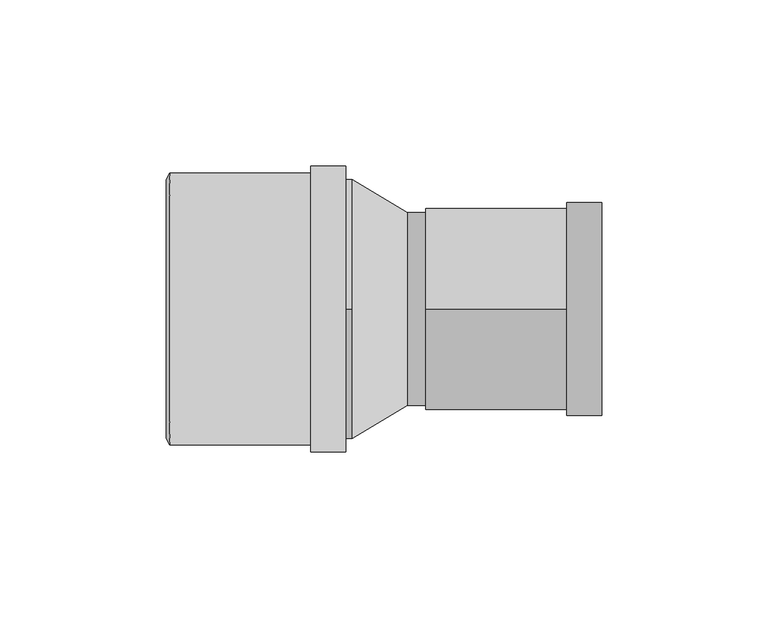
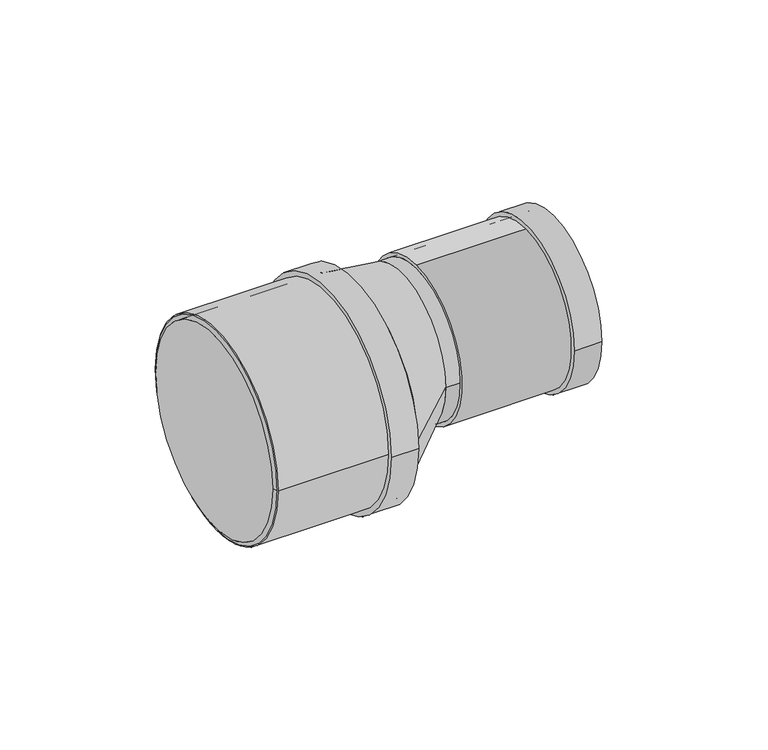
"""IFC4 building model written with IfcOpenShell, lengths in millimetres: pipe fitting geometry, Superdrain SKR-Reducer : Superdrain SKR-Reducer."""

from ifc_helpers import new_model, si_unit, point, frame, frame_2d, origin, origin_2d, place, context, project, spatial, polyline, circle_curve, trimmed, segment, composite_curve, outline, extrude, source, transform, mapped, element, save
from ifc_brep_helpers import plane_surface, revolved_surface, spline_surface, advanced_brep


def pipe_fitting_ca2bbeb8(model_context):
    return source(origin(), model_context, "Body", "SolidModel", [
        extrude(outline(composite_curve([segment(trimmed(circle_curve(frame_2d((0.0, 0.1450234)), 40.95), [point((40.95, 0.1450234))], [point((-40.95, 0.1450234))], False, "CARTESIAN"), True, "CONTINUOUS"), segment(trimmed(circle_curve(frame_2d((0.0, 0.1450234)), 40.95), [point((-40.95, 0.1450234))], [point((40.95, 0.1450234))], False, "CARTESIAN"), True, "CONTINUOUS")], self_intersect=False), holes=[composite_curve([segment(trimmed(circle_curve(frame_2d((0.0, 0.1450234)), 39.0), [point((39.0, 0.1450234))], [point((-39.0, 0.1450234))], True, "CARTESIAN"), True, "CONTINUOUS"), segment(trimmed(circle_curve(frame_2d((0.0, 0.1450234)), 39.0), [point((-39.0, 0.1450234))], [point((39.0, 0.1450234))], True, "CARTESIAN"), True, "CONTINUOUS")], self_intersect=False)]), frame((-55.0, 0.0, 0.0), z_axis=(1.0, 0.0, 0.0), x_axis=(0.0, 1.0, 0.0)), (0.0, 0.0, 1.0), 53.0),
        extrude(outline(composite_curve([segment(trimmed(circle_curve(frame_2d((0.0, 0.1450234)), 42.9975), [point((42.9975, 0.1450234))], [point((-42.9975, 0.1450234))], False, "CARTESIAN"), True, "CONTINUOUS"), segment(trimmed(circle_curve(frame_2d((0.0, 0.1450234)), 42.9975), [point((-42.9975, 0.1450234))], [point((42.9975, 0.1450234))], False, "CARTESIAN"), True, "CONTINUOUS")], self_intersect=False), holes=[composite_curve([segment(trimmed(circle_curve(frame_2d((0.0, 0.1450234)), 39.0), [point((39.0, 0.1450234))], [point((-39.0, 0.1450234))], True, "CARTESIAN"), True, "CONTINUOUS"), segment(trimmed(circle_curve(frame_2d((0.0, 0.1450234)), 39.0), [point((-39.0, 0.1450234))], [point((39.0, 0.1450234))], True, "CARTESIAN"), True, "CONTINUOUS")], self_intersect=False)]), frame((-12.6, 0.0, 0.0), z_axis=(1.0, 0.0, 0.0), x_axis=(0.0, 1.0, 0.0)), (0.0, 0.0, 1.0), 10.6),
        advanced_brep(
        [(-56.0, 39.0, 0.1450234), (-56.0, -39.0, 0.1450234), (-55.0, 40.95, 0.1450234), (-55.0, -40.95, 0.1450234)],
        [
            (0, 1, circle_curve(frame((-56.0, 0.0, 0.1450234), z_axis=(-1.0, 0.0, 0.0), x_axis=(0.0, 1.0000000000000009, 0.0)), 39.0)),
            (1, 0, circle_curve(frame((-56.0, 0.0, 0.1450234), z_axis=(-1.0, 0.0, 0.0), x_axis=(0.0, -1.0000000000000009, 0.0)), 39.0)),
            (2, 3, circle_curve(frame((-55.0, 0.0, 0.1450234), z_axis=(1.0, 0.0, 0.0), x_axis=(0.0, -1.0000000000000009, 0.0)), 40.95)),
            (3, 2, circle_curve(frame((-55.0, 0.0, 0.1450234), z_axis=(1.0, 0.0, 0.0), x_axis=(0.0, 1.0000000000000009, 0.0)), 40.95)),
            (3, 1),
            (0, 2),
        ],
        [
            plane_surface(frame((-56.0, 0.0, 0.1450234), z_axis=(-1.0, 0.0, 0.0), x_axis=(0.0, 0.0, -1.0))),
            plane_surface(frame((-55.0, 0.0, 0.1450234), z_axis=(1.0, 0.0, 0.0), x_axis=(0.0, 0.0, -1.0))),
            revolved_surface(polyline([(-56.0, 38.99999999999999, 0.1450234), (-55.0, 40.95, 0.1450234)]), (-76.0, 0.0, 0.1450234), (1.0000000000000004, 0.0, 0.0)),
            revolved_surface(polyline([(-56.0, -38.99999999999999, 0.1450234), (-55.0, -40.95, 0.1450234)]), (-76.0, 0.0, 0.1450234), (1.0000000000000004, 0.0, 0.0)),
        ],
        [
            (0, [[1, 2]]),
            (1, [[3, 4]]),
            (2, [[-4, 5, -1, 6]]),
            (3, [[-3, -6, -2, -5]]),
        ],
    ),
        advanced_brep(
        [(16.5, -29.0, 10.0), (16.5, 29.0, 10.0), (0.0, -39.0, 0.0), (0.0, 39.0, 0.0)],
        [
            (0, 1, circle_curve(frame((16.5, 0.0, 10.0), z_axis=(1.0, 0.0, 0.0), x_axis=(0.0, 1.0, 0.0)), 29.0)),
            (1, 0, circle_curve(frame((16.5, 0.0, 10.0), z_axis=(1.0, 0.0, 0.0), x_axis=(0.0, 1.0, 0.0)), 29.0)),
            (2, 3, circle_curve(frame((0.0, 0.0, 0.0), z_axis=(-1.0, 0.0, 0.0), x_axis=(0.0, 1.0, 0.0)), 39.0)),
            (3, 2, circle_curve(frame((0.0, 0.0, 0.0), z_axis=(-1.0, 0.0, 0.0), x_axis=(0.0, 1.0, 0.0)), 39.0)),
            (3, 1),
            (0, 2),
        ],
        [
            plane_surface(frame((16.5, 0.0, 10.0), z_axis=(1.0, 0.0, 0.0), x_axis=(0.0, 0.0, -1.0))),
            plane_surface(frame((0.0, 0.0, 0.0), z_axis=(-1.0, 0.0, 0.0), x_axis=(0.0, 0.0, -1.0))),
            spline_surface(2, 1, [[(0.0, -39.0, 0.0), (16.5, -29.0, 10.0)], [(0.0, -39.0, -39.0), (16.5, -29.0, -19.0)], [(0.0, 0.0, -39.0), (16.5, 0.0, -19.0)], [(0.0, 39.0, -39.0), (16.5, 29.0, -19.0)], [(0.0, 39.0, 0.0), (16.5, 29.0, 10.0)]], [3, 2, 3], [2, 2], [0.0, 1.0, 2.0], [0.0, 1.0], weights=[[1.0, 1.0], [0.7071067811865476, 0.7071067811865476], [1.0, 1.0], [0.7071067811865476, 0.7071067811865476], [1.0, 1.0]]),
            spline_surface(2, 1, [[(0.0, 39.0, 0.0), (16.5, 29.0, 10.0)], [(0.0, 39.0, 39.0), (16.5, 29.0, 39.0)], [(0.0, 0.0, 39.0), (16.5, 0.0, 39.0)], [(0.0, -39.0, 39.0), (16.5, -29.0, 39.0)], [(0.0, -39.0, 0.0), (16.5, -29.0, 10.0)]], [3, 2, 3], [2, 2], [0.0, 1.0, 2.0], [0.0, 1.0], weights=[[1.0, 1.0], [0.7071067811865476, 0.7071067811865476], [1.0, 1.0], [0.7071067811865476, 0.7071067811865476], [1.0, 1.0]]),
        ],
        [
            (0, [[1, 2]]),
            (1, [[3, 4]]),
            (2, [[-4, 5, -1, 6]]),
            (3, [[-3, -6, -2, -5]]),
        ],
    ),
        extrude(outline(composite_curve([segment(trimmed(circle_curve(frame_2d((0.0, 10.0)), 29.0), [point((-29.0, 10.0))], [point((29.0, 10.0))], False, "CARTESIAN"), True, "CONTINUOUS"), segment(trimmed(circle_curve(frame_2d((0.0, 10.0)), 29.0), [point((29.0, 10.0))], [point((-29.0, 10.0))], False, "CARTESIAN"), True, "CONTINUOUS")], self_intersect=False)), frame((16.5, 0.0, 0.0), z_axis=(1.0, 0.0, 0.0), x_axis=(0.0, 1.0, 0.0)), (0.0, 0.0, 1.0), 5.5),
        extrude(outline(composite_curve([segment(trimmed(circle_curve(frame_2d((0.0, 10.0)), 31.9725), [point((-31.9725, 10.0))], [point((31.9725, 10.0))], False, "CARTESIAN"), True, "CONTINUOUS"), segment(trimmed(circle_curve(frame_2d((0.0, 10.0)), 31.9725), [point((31.9725, 10.0))], [point((-31.9725, 10.0))], False, "CARTESIAN"), True, "CONTINUOUS")], self_intersect=False), holes=[composite_curve([segment(trimmed(circle_curve(frame_2d((0.0, 10.0)), 29.0), [point((29.0, 10.0))], [point((-29.0, 10.0))], True, "CARTESIAN"), True, "CONTINUOUS"), segment(trimmed(circle_curve(frame_2d((0.0, 10.0)), 29.0), [point((-29.0, 10.0))], [point((29.0, 10.0))], True, "CARTESIAN"), True, "CONTINUOUS")], self_intersect=False)]), frame((64.4, 0.0, 0.0), z_axis=(1.0, 0.0, 0.0), x_axis=(0.0, 1.0, 0.0)), (0.0, 0.0, 1.0), 10.6),
        extrude(outline(composite_curve([segment(trimmed(circle_curve(frame_2d((0.0, 10.0)), 30.45), [point((0.0, 40.45))], [point((0.0, -20.45))], False, "CARTESIAN"), True, "CONTINUOUS"), segment(trimmed(circle_curve(frame_2d((0.0, 10.0)), 30.45), [point((0.0, -20.45))], [point((0.0, 40.45))], False, "CARTESIAN"), True, "CONTINUOUS")], self_intersect=False), holes=[composite_curve([segment(trimmed(circle_curve(frame_2d((0.0, 10.0)), 29.0), [point((29.0, 10.0))], [point((-29.0, 10.0))], True, "CARTESIAN"), True, "CONTINUOUS"), segment(trimmed(circle_curve(frame_2d((0.0, 10.0)), 29.0), [point((-29.0, 10.0))], [point((29.0, 10.0))], True, "CARTESIAN"), True, "CONTINUOUS")], self_intersect=False)]), frame((22.0, 0.0, 0.0), z_axis=(1.0, 0.0, 0.0), x_axis=(0.0, 1.0, 0.0)), (0.0, 0.0, 1.0), 53.0),
        extrude(outline(composite_curve([segment(trimmed(circle_curve(origin_2d(), 39.0), [point((0.0, 39.0))], [point((0.0, -39.0))], False, "CARTESIAN"), True, "CONTINUOUS"), segment(trimmed(circle_curve(origin_2d(), 39.0), [point((0.0, -39.0))], [point((0.0, 39.0))], False, "CARTESIAN"), True, "CONTINUOUS")], self_intersect=False)), frame((-55.0, 0.0, 0.0), z_axis=(1.0, 0.0, 0.0), x_axis=(0.0, 1.0, 0.0)), (0.0, 0.0, 1.0), 55.0),
    ])


if __name__ == "__main__":
    model = new_model("IFC4")
    model_context = context("Model", 3, world=origin())
    ifc_project = project(units=[si_unit("LENGTHUNIT", "METRE", prefix="MILLI")], contexts=[model_context])
    site = spatial("IfcSite", under=ifc_project)
    building = spatial("IfcBuilding", under=site)
    placement = place(None, origin())
    pipe_fitting_shape = pipe_fitting_ca2bbeb8(model_context)
    element("IfcPipeFitting", 1, ObjectType="Superdrain SKR-Reducer : Superdrain SKR-Reducer", at=placement, inside=building, context=model_context, shape_type="MappedRepresentation", body=[
        mapped(pipe_fitting_shape, transform((0.0, 0.0, 0.0), x_axis=(1.0, 0.0, 0.0), y_axis=(0.0, 1.0, 0.0), z_axis=(0.0, 0.0, 1.0))),
    ])
    save(model, "model.ifc")
